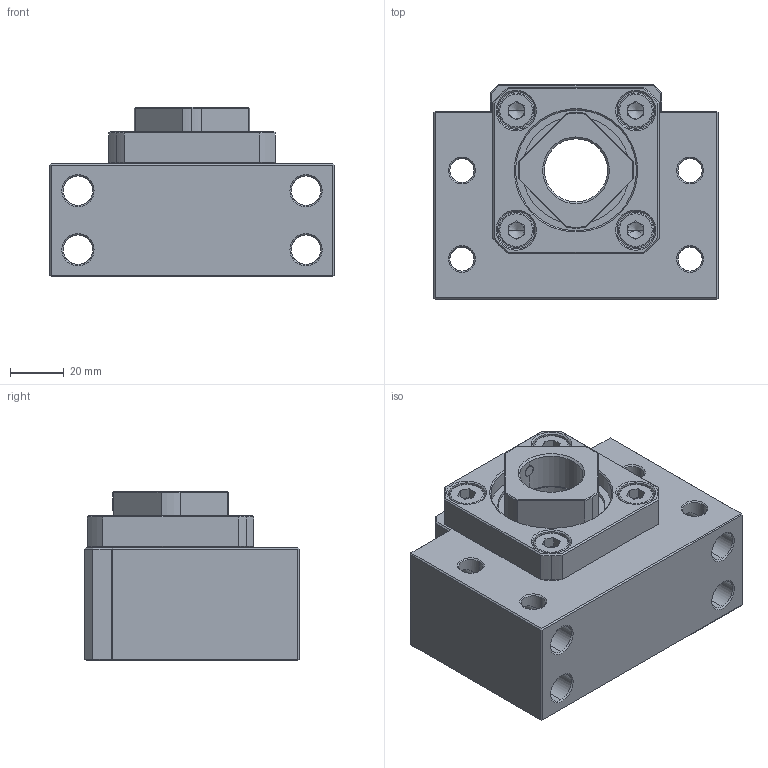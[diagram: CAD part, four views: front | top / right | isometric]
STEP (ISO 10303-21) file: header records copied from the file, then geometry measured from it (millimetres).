
FILE_DESCRIPTION (( 'STEP AP203' ), '1' );
FILE_NAME ('BSGK-25_203.STEP', '2013-02-26T01:21:30', ( '' ), ( '' ), 'SwSTEP 2.0', 'SolidWorks 2012', '' );
FILE_SCHEMA (( 'CONFIG_CONTROL_DESIGN' ));
Length unit declared in the file: millimetre
Products named in the file (1): BSGK-25_203
Bounding box: 106 x 80 x 63 mm (x, y, z)
Volume: 316747.7 mm3; surface area: 62436 mm2
Topology: 1 solids, 16 shells, 470 faces, 1077 edges, 628 vertices
Faces by surface type: plane 167, cylinder 143, cone 120, torus 40
Entity records: 14385 total; most frequent: CARTESIAN_POINT 3631, DIRECTION 2350, ORIENTED_EDGE 2118, EDGE_CURVE 1059, AXIS2_PLACEMENT_3D 923, VERTEX_POINT 628, EDGE_LOOP 531, VECTOR 504
